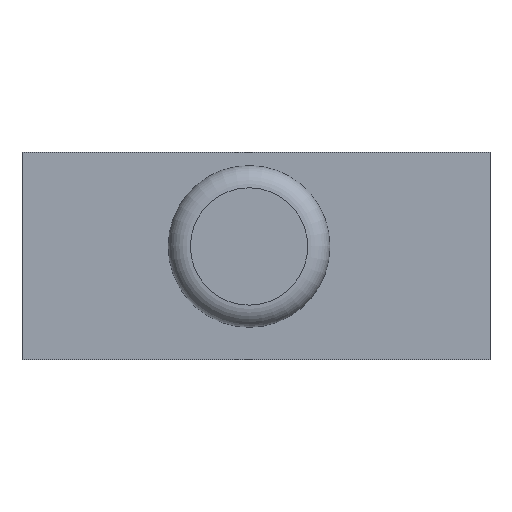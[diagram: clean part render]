
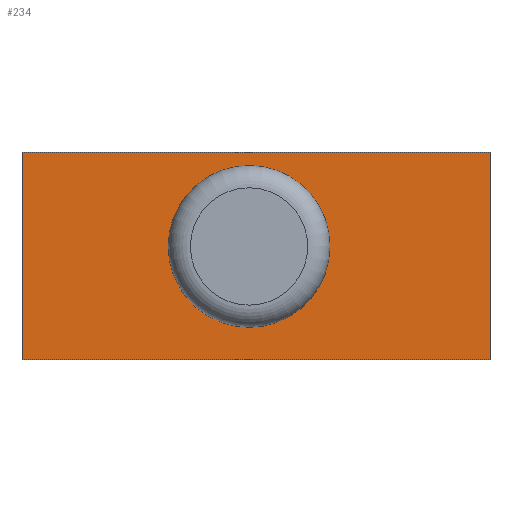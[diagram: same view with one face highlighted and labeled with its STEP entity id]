
A CAD part, left-side view. The second image highlights one B-rep face of the part: STEP entity #234.
In plain terms, the highlighted planar face has unit normal (-1, 0, 0).
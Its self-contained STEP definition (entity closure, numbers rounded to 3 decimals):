
#15=FACE_BOUND('',#103,.T.);
#23=PLANE('',#267);
#42=LINE('',#380,#67);
#43=LINE('',#382,#68);
#44=LINE('',#384,#69);
#45=LINE('',#385,#70);
#67=VECTOR('',#316,10.);
#68=VECTOR('',#317,10.);
#69=VECTOR('',#318,10.);
#70=VECTOR('',#319,10.);
#88=FACE_OUTER_BOUND('',#102,.T.);
#102=EDGE_LOOP('',(#196,#197,#198,#199));
#103=EDGE_LOOP('',(#200));
#114=CIRCLE('',#260,1.819);
#118=VERTEX_POINT('',#348);
#127=VERTEX_POINT('',#378);
#128=VERTEX_POINT('',#379);
#129=VERTEX_POINT('',#381);
#130=VERTEX_POINT('',#383);
#140=EDGE_CURVE('',#118,#118,#114,.T.);
#153=EDGE_CURVE('',#127,#128,#42,.T.);
#154=EDGE_CURVE('',#128,#129,#43,.T.);
#155=EDGE_CURVE('',#129,#130,#44,.T.);
#156=EDGE_CURVE('',#130,#127,#45,.T.);
#196=ORIENTED_EDGE('',*,*,#153,.T.);
#197=ORIENTED_EDGE('',*,*,#154,.T.);
#198=ORIENTED_EDGE('',*,*,#155,.T.);
#199=ORIENTED_EDGE('',*,*,#156,.T.);
#200=ORIENTED_EDGE('',*,*,#140,.F.);
#234=ADVANCED_FACE('',(#88,#15),#23,.T.);
#260=AXIS2_PLACEMENT_3D('',#350,#288,#289);
#267=AXIS2_PLACEMENT_3D('',#377,#314,#315);
#288=DIRECTION('center_axis',(-1.,0.,0.));
#289=DIRECTION('ref_axis',(0.,1.,0.));
#314=DIRECTION('center_axis',(-1.,0.,0.));
#315=DIRECTION('ref_axis',(0.,0.,1.));
#316=DIRECTION('',(0.,-1.,0.));
#317=DIRECTION('',(0.,0.,1.));
#318=DIRECTION('',(0.,1.,0.));
#319=DIRECTION('',(0.,0.,-1.));
#348=CARTESIAN_POINT('',(93.923,-96.381,2.401));
#350=CARTESIAN_POINT('Origin',(93.923,-94.562,2.401));
#377=CARTESIAN_POINT('Origin',(93.923,-94.718,2.186));
#378=CARTESIAN_POINT('',(93.923,-89.455,-0.15));
#379=CARTESIAN_POINT('',(93.923,-99.981,-0.15));
#380=CARTESIAN_POINT('',(93.923,-89.455,-0.15));
#381=CARTESIAN_POINT('',(93.923,-99.981,4.523));
#382=CARTESIAN_POINT('',(93.923,-99.981,-0.15));
#383=CARTESIAN_POINT('',(93.923,-89.455,4.523));
#384=CARTESIAN_POINT('',(93.923,-99.981,4.523));
#385=CARTESIAN_POINT('',(93.923,-89.455,4.523));
